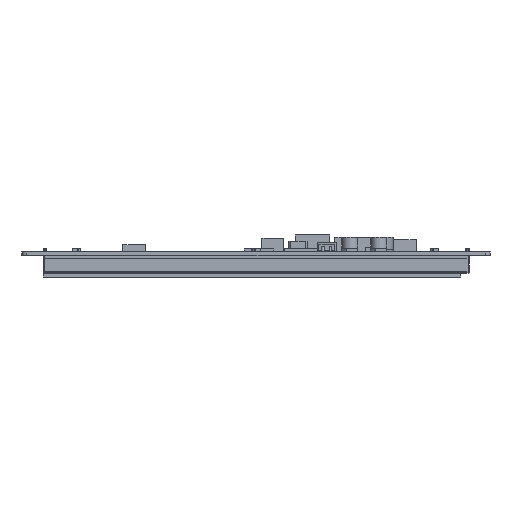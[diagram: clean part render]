
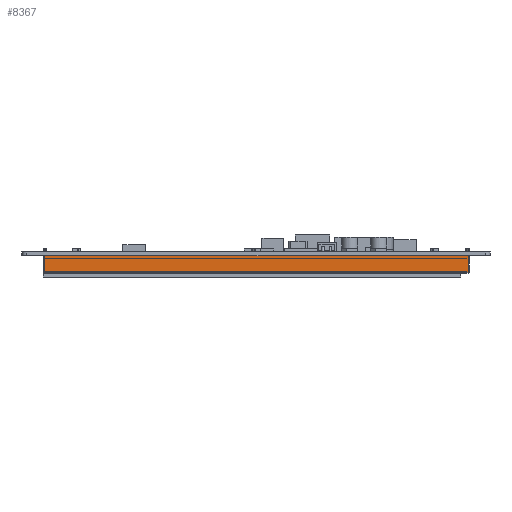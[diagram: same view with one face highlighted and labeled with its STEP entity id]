
A CAD part, left-side view. The second image highlights one B-rep face of the part: STEP entity #8367.
In plain terms, the highlighted planar face has unit normal (-1, 0, 0).
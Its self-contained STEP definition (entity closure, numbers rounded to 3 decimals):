
#8367=ADVANCED_FACE('',(#13034),#10748,.T.);
#10748=PLANE('',#45955);
#13034=FACE_OUTER_BOUND('',#15532,.T.);
#15532=EDGE_LOOP('',(#24010,#24011,#24012,#24013));
#24010=ORIENTED_EDGE('',*,*,#33458,.F.);
#24011=ORIENTED_EDGE('',*,*,#33459,.T.);
#24012=ORIENTED_EDGE('',*,*,#33460,.T.);
#24013=ORIENTED_EDGE('',*,*,#33461,.F.);
#28762=VERTEX_POINT('',#65627);
#28763=VERTEX_POINT('',#65628);
#28764=VERTEX_POINT('',#65630);
#28765=VERTEX_POINT('',#65632);
#33458=EDGE_CURVE('',#28762,#28763,#38428,.T.);
#33459=EDGE_CURVE('',#28762,#28764,#38429,.T.);
#33460=EDGE_CURVE('',#28764,#28765,#38430,.T.);
#33461=EDGE_CURVE('',#28763,#28765,#38431,.T.);
#38428=LINE('',#65626,#43156);
#38429=LINE('',#65629,#43157);
#38430=LINE('',#65631,#43158);
#38431=LINE('',#65633,#43159);
#43156=VECTOR('',#54559,1.);
#43157=VECTOR('',#54560,1.);
#43158=VECTOR('',#54561,1.);
#43159=VECTOR('',#54562,1.);
#45955=AXIS2_PLACEMENT_3D('',#65634,#54563,#54564);
#54559=DIRECTION('',(0.,0.,1.));
#54560=DIRECTION('',(0.,-1.,0.));
#54561=DIRECTION('',(0.,0.,1.));
#54562=DIRECTION('',(0.,-1.,0.));
#54563=DIRECTION('',(-1.,0.,0.));
#54564=DIRECTION('',(0.,-1.,0.));
#65626=CARTESIAN_POINT('',(-110.155,120.865,-8.8));
#65627=CARTESIAN_POINT('',(-110.155,120.865,-8.4));
#65628=CARTESIAN_POINT('',(-110.155,120.865,-1.6));
#65629=CARTESIAN_POINT('',(-110.155,-54.535,-8.4));
#65630=CARTESIAN_POINT('',(-110.155,-54.535,-8.4));
#65631=CARTESIAN_POINT('',(-110.155,-54.535,-8.8));
#65632=CARTESIAN_POINT('',(-110.155,-54.535,-1.6));
#65633=CARTESIAN_POINT('',(-110.155,120.865,-1.6));
#65634=CARTESIAN_POINT('',(-110.155,120.865,-8.8));
